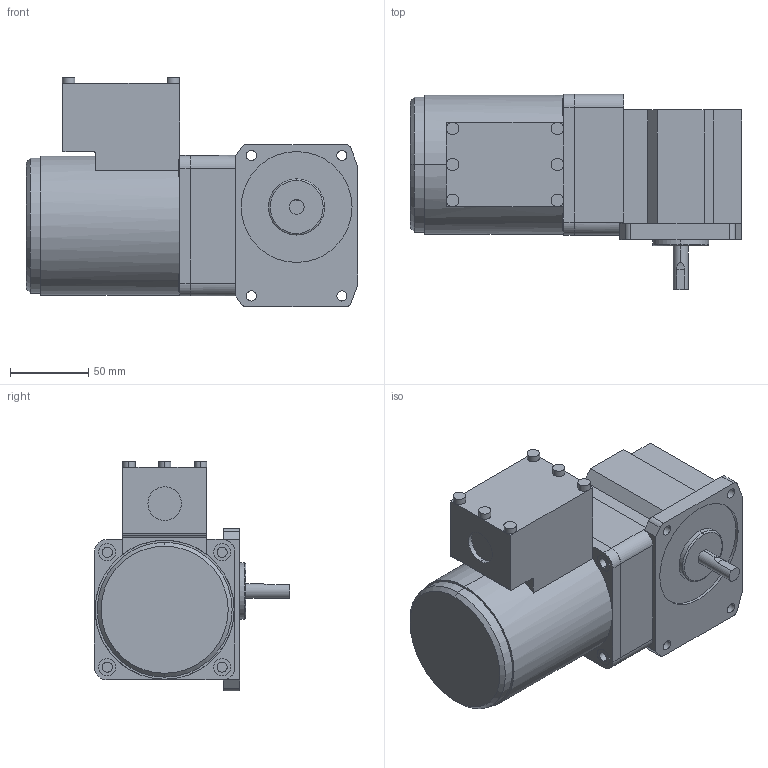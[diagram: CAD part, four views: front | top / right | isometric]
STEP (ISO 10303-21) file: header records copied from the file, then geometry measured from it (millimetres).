
FILE_DESCRIPTION(('starvars output'),'2;1');
FILE_NAME('5IK40GN-SH _ 5GN3RAA.stp','10:37:07 2015/05/11',( 'Thomas Industrial Network Germany GmbH'),( 'Thomas Industrial Network Germany GmbH'),'unknown preprocess','ACIS' ,'unknown authorization');
FILE_SCHEMA(('AUTOMOTIVE_DESIGN_CC2 {UNKNOWN IMPLEMENTATION LEVEL}'));
Length unit declared in the file: millimetre
Products named in the file (1): PRODUCT_ID_574
Bounding box: 212 x 125 x 147.2 mm (x, y, z)
Volume: 1606571.5 mm3; surface area: 105713.5 mm2
Topology: 2 solids, 2 shells, 152 faces, 374 edges, 242 vertices
Faces by surface type: plane 76, cylinder 72, torus 2, cone 2
Entity records: 5318 total; most frequent: ORIENTED_EDGE 748, CARTESIAN_POINT 692, DIRECTION 627, EDGE_CURVE 374, VERTEX_POINT 242, AXIS2_PLACEMENT_3D 213, VECTOR 201, LINE 201
